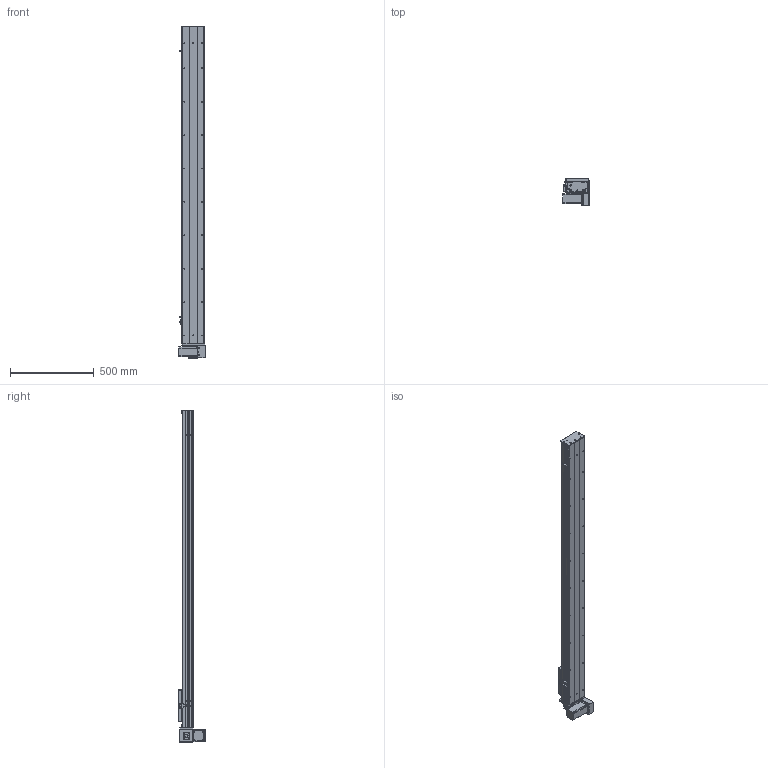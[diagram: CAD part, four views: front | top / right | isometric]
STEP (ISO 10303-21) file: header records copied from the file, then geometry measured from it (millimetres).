
FILE_DESCRIPTION (( 'STEP AP203' ), '1' );
FILE_NAME ('Y135CB-D90-S1600-BM-P400W.STEP', '2020-02-19T01:30:55', ( '微软用户' ), ( '微软中国' ), 'SwSTEP 2.0', 'SolidWorks 2017', '' );
FILE_SCHEMA (( 'CONFIG_CONTROL_DESIGN' ));
Length unit declared in the file: millimetre
Products named in the file (18): Y10B-耜蚾蟀諉啣----; C-詩湍揤踡え-陔; Y135CB-D90-S1600-BM-P400W; 135CB--詩湍-CE; Y100-135俋离換覜ん--; Y135CB-耜裔; Y135C-陔俋离換覜結え-; 0B-埴倛裔啣; 135CB---遴掛极.-; 5C--俋欶; 0B-源倛裔啣; 35CB---喘謫眊楊擘啣; C-雄赽釱--; 0B-萇儂楊擘啣; Y10B--々湍喘謫眊--666; san松下电机400不带刹车----; 00B-俋欶BM--; 5CB --掛极耜裔啣-
Assembly tree (21 placements, depth 2):
  Y135CB-D90-S1600-BM-P400W
    Y135CB-耜裔
    135CB---遴掛极.-
    35CB---喘謫眊楊擘啣
    0B-埴倛裔啣
    0B-源倛裔啣
    0B-萇儂楊擘啣
    san松下电机400不带刹车----
    5CB --掛极耜裔啣-  x2
    C-詩湍揤踡え-陔  x2
    135CB--詩湍-CE
    Y100-135俋离換覜ん--  x3
    Y135C-陔俋离換覜結え-
    5C--俋欶
    C-雄赽釱--
    Y10B--々湍喘謫眊--666
    00B-俋欶BM--
    Y10B-耜蚾蟀諉啣----
Bounding box: 157 x 163.3 x 1988 mm (x, y, z)
Volume: 5944599.4 mm3; surface area: 2341733.3 mm2
Topology: 21 solids, 21 shells, 957 faces, 2581 edges, 1710 vertices
Faces by surface type: cylinder 485, plane 456, cone 16
Entity records: 29955 total; most frequent: DIRECTION 4977, CARTESIAN_POINT 4944, ORIENTED_EDGE 4638, EDGE_CURVE 2319, AXIS2_PLACEMENT_3D 1819, VERTEX_POINT 1538, VECTOR 1339, LINE 1339
